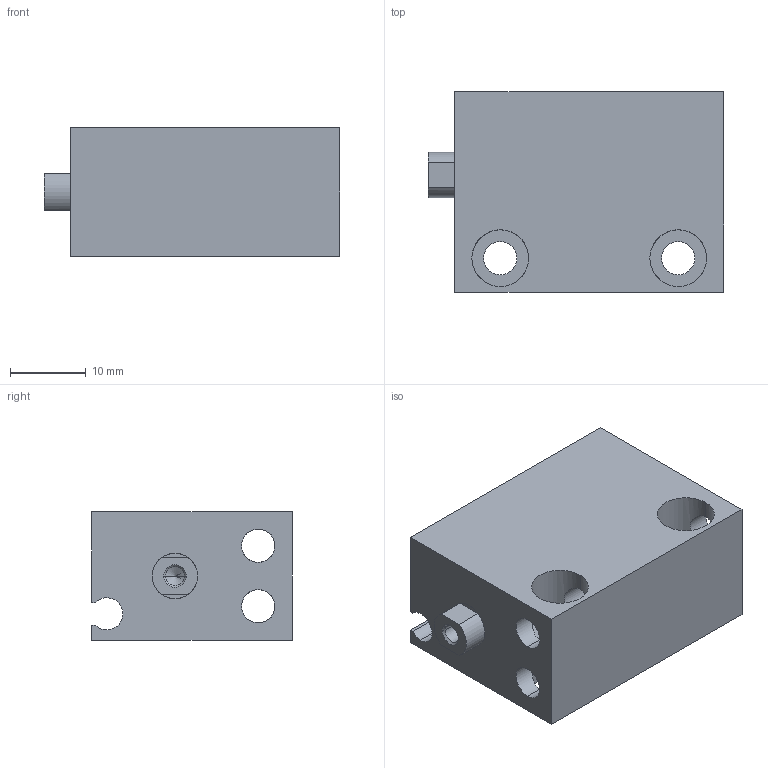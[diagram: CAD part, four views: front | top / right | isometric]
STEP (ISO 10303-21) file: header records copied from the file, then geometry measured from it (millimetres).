
FILE_DESCRIPTION (( 'STEP AP203' ), '1' );
FILE_NAME ('CLJB12-20.STEP', '2020-07-30T18:49:53', ( '' ), ( '' ), 'SwSTEP 2.0', 'SolidWorks 2019', '' );
FILE_SCHEMA (( 'CONFIG_CONTROL_DESIGN' ));
Length unit declared in the file: millimetre
Products named in the file (1): CLJB12-20
Bounding box: 39 x 26.5 x 17 mm (x, y, z)
Volume: 11838.5 mm3; surface area: 7448.8 mm2
Topology: 2 solids, 2 shells, 75 faces, 188 edges, 113 vertices
Faces by surface type: cylinder 41, plane 22, cone 12
Entity records: 3119 total; most frequent: CARTESIAN_POINT 1223, DIRECTION 394, ORIENTED_EDGE 364, EDGE_CURVE 182, AXIS2_PLACEMENT_3D 152, VERTEX_POINT 113, EDGE_LOOP 93, VECTOR 90
